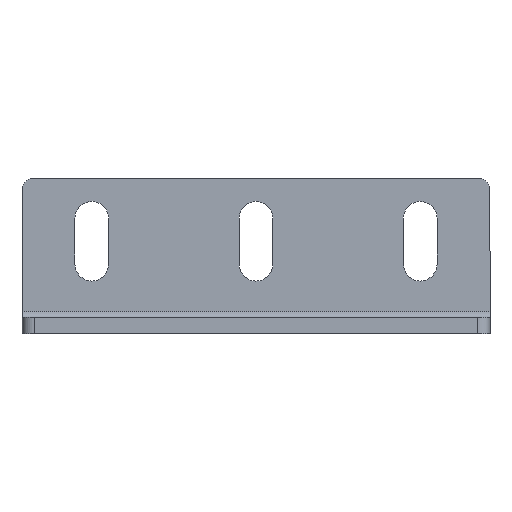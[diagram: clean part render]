
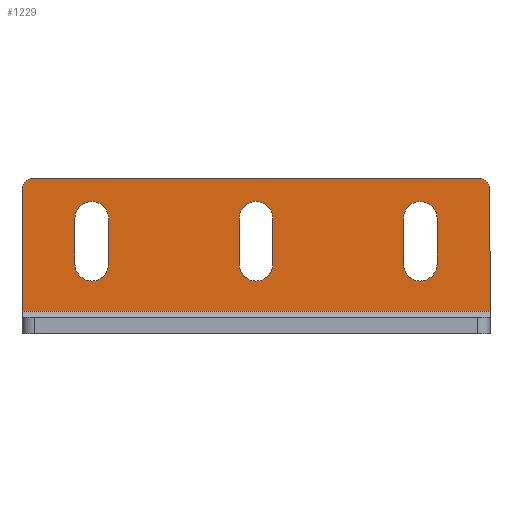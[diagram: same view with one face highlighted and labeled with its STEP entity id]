
A CAD part, top view. The second image highlights one B-rep face of the part: STEP entity #1229.
In plain terms, the highlighted planar face has unit normal (0, 0, 1).
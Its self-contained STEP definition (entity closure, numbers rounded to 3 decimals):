
#19 = EDGE_CURVE ( 'NONE', #1201, #1355, #59, .T. ) ;
#20 = DIRECTION ( 'NONE',  ( 0., 0., 1. ) ) ;
#26 = PLANE ( 'NONE',  #643 ) ;
#28 = CARTESIAN_POINT ( 'NONE',  ( 94.783, 19.097, 4. ) ) ;
#31 = VERTEX_POINT ( 'NONE', #889 ) ;
#37 = DIRECTION ( 'NONE',  ( 0., 0., 1. ) ) ;
#58 = CARTESIAN_POINT ( 'NONE',  ( 84.883, 9.297, 4. ) ) ;
#59 = LINE ( 'NONE', #148, #342 ) ;
#77 = AXIS2_PLACEMENT_3D ( 'NONE', #671, #37, #311 ) ;
#79 = VERTEX_POINT ( 'NONE', #1265 ) ;
#100 = VERTEX_POINT ( 'NONE', #987 ) ;
#106 = EDGE_CURVE ( 'NONE', #1219, #743, #482, .T. ) ;
#111 = DIRECTION ( 'NONE',  ( 0., 0., 1. ) ) ;
#115 = EDGE_CURVE ( 'NONE', #155, #79, #241, .T. ) ;
#118 = VERTEX_POINT ( 'NONE', #28 ) ;
#127 = CARTESIAN_POINT ( 'NONE',  ( 4.883, -1.903, 4. ) ) ;
#132 = CARTESIAN_POINT ( 'NONE',  ( 36.683, 9.297, 4. ) ) ;
#148 = CARTESIAN_POINT ( 'NONE',  ( 4.883, -1.903, 4. ) ) ;
#151 = CARTESIAN_POINT ( 'NONE',  ( 80.783, -1.903, 4. ) ) ;
#155 = VERTEX_POINT ( 'NONE', #365 ) ;
#159 = EDGE_CURVE ( 'NONE', #79, #31, #392, .T. ) ;
#176 = CARTESIAN_POINT ( 'NONE',  ( -16.217, -13.403, 4. ) ) ;
#181 = LINE ( 'NONE', #587, #780 ) ;
#188 = EDGE_CURVE ( 'NONE', #1355, #1219, #960, .T. ) ;
#200 = CARTESIAN_POINT ( 'NONE',  ( 97.783, 16.097, 4. ) ) ;
#206 = DIRECTION ( 'NONE',  ( 0., 1., 0. ) ) ;
#210 = EDGE_CURVE ( 'NONE', #1283, #1121, #595, .T. ) ;
#211 = VECTOR ( 'NONE', #447, 1000. ) ;
#222 = ORIENTED_EDGE ( 'NONE', *, *, #188, .F. ) ;
#237 = CARTESIAN_POINT ( 'NONE',  ( -3.317, 9.297, 4. ) ) ;
#241 = LINE ( 'NONE', #1209, #767 ) ;
#242 = CARTESIAN_POINT ( 'NONE',  ( -3.317, 9.297, 4. ) ) ;
#244 = EDGE_LOOP ( 'NONE', ( #402, #653, #916, #847 ) ) ;
#250 = EDGE_CURVE ( 'NONE', #345, #253, #568, .T. ) ;
#253 = VERTEX_POINT ( 'NONE', #200 ) ;
#259 = ORIENTED_EDGE ( 'NONE', *, *, #265, .T. ) ;
#262 = DIRECTION ( 'NONE',  ( 1., 0., 0. ) ) ;
#265 = EDGE_CURVE ( 'NONE', #253, #118, #817, .T. ) ;
#270 = CIRCLE ( 'NONE', #557, 3. ) ;
#303 = VERTEX_POINT ( 'NONE', #633 ) ;
#305 = LINE ( 'NONE', #132, #1373 ) ;
#311 = DIRECTION ( 'NONE',  ( 1., 0., 0. ) ) ;
#316 = VECTOR ( 'NONE', #1384, 1000. ) ;
#320 = CIRCLE ( 'NONE', #710, 4.1 ) ;
#342 = VECTOR ( 'NONE', #1003, 1000. ) ;
#345 = VERTEX_POINT ( 'NONE', #1368 ) ;
#352 = DIRECTION ( 'NONE',  ( 0., -1., 0. ) ) ;
#358 = FACE_BOUND ( 'NONE', #244, .T. ) ;
#359 = DIRECTION ( 'NONE',  ( 0., 0., 1. ) ) ;
#365 = CARTESIAN_POINT ( 'NONE',  ( 76.683, 9.297, 4. ) ) ;
#366 = EDGE_CURVE ( 'NONE', #31, #1042, #712, .T. ) ;
#387 = EDGE_LOOP ( 'NONE', ( #786, #516, #795, #929 ) ) ;
#392 = CIRCLE ( 'NONE', #1216, 4.1 ) ;
#396 = AXIS2_PLACEMENT_3D ( 'NONE', #739, #111, #850 ) ;
#402 = ORIENTED_EDGE ( 'NONE', *, *, #366, .F. ) ;
#417 = CARTESIAN_POINT ( 'NONE',  ( 44.883, -1.903, 4. ) ) ;
#421 = EDGE_CURVE ( 'NONE', #1346, #1271, #757, .T. ) ;
#447 = DIRECTION ( 'NONE',  ( 0., -1., 0. ) ) ;
#457 = CARTESIAN_POINT ( 'NONE',  ( 44.883, 9.297, 4. ) ) ;
#459 = ORIENTED_EDGE ( 'NONE', *, *, #681, .F. ) ;
#469 = ORIENTED_EDGE ( 'NONE', *, *, #1032, .T. ) ;
#482 = LINE ( 'NONE', #242, #211 ) ;
#483 = EDGE_CURVE ( 'NONE', #1271, #591, #621, .T. ) ;
#491 = DIRECTION ( 'NONE',  ( 0., 0., 1. ) ) ;
#504 = CARTESIAN_POINT ( 'NONE',  ( 0.783, 9.297, 4. ) ) ;
#513 = CARTESIAN_POINT ( 'NONE',  ( 44.883, -1.903, 4. ) ) ;
#515 = CARTESIAN_POINT ( 'NONE',  ( 4.883, 9.297, 4. ) ) ;
#516 = ORIENTED_EDGE ( 'NONE', *, *, #1286, .F. ) ;
#552 = DIRECTION ( 'NONE',  ( 0., -1., 0. ) ) ;
#557 = AXIS2_PLACEMENT_3D ( 'NONE', #1147, #491, #1249 ) ;
#568 = LINE ( 'NONE', #946, #1119 ) ;
#570 = DIRECTION ( 'NONE',  ( 0., 0., 1. ) ) ;
#578 = ORIENTED_EDGE ( 'NONE', *, *, #250, .T. ) ;
#587 = CARTESIAN_POINT ( 'NONE',  ( 0., -13.403, 4. ) ) ;
#591 = VERTEX_POINT ( 'NONE', #913 ) ;
#595 = LINE ( 'NONE', #713, #1150 ) ;
#608 = DIRECTION ( 'NONE',  ( 1., 0., 0. ) ) ;
#618 = DIRECTION ( 'NONE',  ( 0., 1., 0. ) ) ;
#620 = CARTESIAN_POINT ( 'NONE',  ( 80.783, 9.297, 4. ) ) ;
#621 = CIRCLE ( 'NONE', #77, 4.1 ) ;
#629 = FACE_BOUND ( 'NONE', #1205, .T. ) ;
#633 = CARTESIAN_POINT ( 'NONE',  ( -13.217, 19.097, 4. ) ) ;
#643 = AXIS2_PLACEMENT_3D ( 'NONE', #1307, #359, #1107 ) ;
#652 = CARTESIAN_POINT ( 'NONE',  ( 0.783, -1.903, 4. ) ) ;
#653 = ORIENTED_EDGE ( 'NONE', *, *, #159, .F. ) ;
#663 = FACE_OUTER_BOUND ( 'NONE', #715, .T. ) ;
#664 = ORIENTED_EDGE ( 'NONE', *, *, #19, .F. ) ;
#671 = CARTESIAN_POINT ( 'NONE',  ( 40.783, 9.297, 4. ) ) ;
#674 = ORIENTED_EDGE ( 'NONE', *, *, #855, .T. ) ;
#677 = ORIENTED_EDGE ( 'NONE', *, *, #106, .F. ) ;
#681 = EDGE_CURVE ( 'NONE', #743, #1201, #1153, .T. ) ;
#706 = ORIENTED_EDGE ( 'NONE', *, *, #210, .T. ) ;
#710 = AXIS2_PLACEMENT_3D ( 'NONE', #1221, #570, #1331 ) ;
#712 = LINE ( 'NONE', #1269, #1290 ) ;
#713 = CARTESIAN_POINT ( 'NONE',  ( -16.217, 19.097, 4. ) ) ;
#715 = EDGE_LOOP ( 'NONE', ( #706, #1242, #578, #259, #469, #674 ) ) ;
#728 = DIRECTION ( 'NONE',  ( 1., 0., 0. ) ) ;
#739 = CARTESIAN_POINT ( 'NONE',  ( 94.783, 16.097, 4. ) ) ;
#743 = VERTEX_POINT ( 'NONE', #979 ) ;
#757 = LINE ( 'NONE', #513, #1016 ) ;
#760 = DIRECTION ( 'NONE',  ( 1., 0., 0. ) ) ;
#767 = VECTOR ( 'NONE', #352, 1000. ) ;
#780 = VECTOR ( 'NONE', #802, 1000. ) ;
#786 = ORIENTED_EDGE ( 'NONE', *, *, #421, .F. ) ;
#788 = EDGE_CURVE ( 'NONE', #591, #100, #305, .T. ) ;
#795 = ORIENTED_EDGE ( 'NONE', *, *, #788, .F. ) ;
#802 = DIRECTION ( 'NONE',  ( 1., 0., 0. ) ) ;
#817 = CIRCLE ( 'NONE', #396, 3. ) ;
#847 = ORIENTED_EDGE ( 'NONE', *, *, #1337, .F. ) ;
#850 = DIRECTION ( 'NONE',  ( 1., 0., 0. ) ) ;
#855 = EDGE_CURVE ( 'NONE', #303, #1283, #270, .T. ) ;
#889 = CARTESIAN_POINT ( 'NONE',  ( 84.883, -1.903, 4. ) ) ;
#891 = DIRECTION ( 'NONE',  ( 0., 0., 1. ) ) ;
#913 = CARTESIAN_POINT ( 'NONE',  ( 36.683, 9.297, 4. ) ) ;
#916 = ORIENTED_EDGE ( 'NONE', *, *, #115, .F. ) ;
#929 = ORIENTED_EDGE ( 'NONE', *, *, #483, .F. ) ;
#938 = AXIS2_PLACEMENT_3D ( 'NONE', #620, #1382, #728 ) ;
#941 = DIRECTION ( 'NONE',  ( 0., -1., 0. ) ) ;
#946 = CARTESIAN_POINT ( 'NONE',  ( 97.783, 19.097, 4. ) ) ;
#960 = CIRCLE ( 'NONE', #1279, 4.1 ) ;
#979 = CARTESIAN_POINT ( 'NONE',  ( -3.317, -1.903, 4. ) ) ;
#987 = CARTESIAN_POINT ( 'NONE',  ( 36.683, -1.903, 4. ) ) ;
#1003 = DIRECTION ( 'NONE',  ( 0., 1., 0. ) ) ;
#1016 = VECTOR ( 'NONE', #206, 1000. ) ;
#1032 = EDGE_CURVE ( 'NONE', #118, #303, #1108, .T. ) ;
#1042 = VERTEX_POINT ( 'NONE', #58 ) ;
#1056 = DIRECTION ( 'NONE',  ( 0., 1., 0. ) ) ;
#1107 = DIRECTION ( 'NONE',  ( 1., 0., 0. ) ) ;
#1108 = LINE ( 'NONE', #1171, #316 ) ;
#1110 = EDGE_CURVE ( 'NONE', #1121, #345, #181, .T. ) ;
#1119 = VECTOR ( 'NONE', #1056, 1000. ) ;
#1121 = VERTEX_POINT ( 'NONE', #176 ) ;
#1147 = CARTESIAN_POINT ( 'NONE',  ( -13.217, 16.097, 4. ) ) ;
#1150 = VECTOR ( 'NONE', #941, 1000. ) ;
#1153 = CIRCLE ( 'NONE', #1370, 4.1 ) ;
#1171 = CARTESIAN_POINT ( 'NONE',  ( 17.783, 19.097, 4. ) ) ;
#1201 = VERTEX_POINT ( 'NONE', #127 ) ;
#1205 = EDGE_LOOP ( 'NONE', ( #664, #459, #677, #222 ) ) ;
#1208 = FACE_BOUND ( 'NONE', #387, .T. ) ;
#1209 = CARTESIAN_POINT ( 'NONE',  ( 76.683, 9.297, 4. ) ) ;
#1216 = AXIS2_PLACEMENT_3D ( 'NONE', #151, #891, #262 ) ;
#1219 = VERTEX_POINT ( 'NONE', #237 ) ;
#1221 = CARTESIAN_POINT ( 'NONE',  ( 40.783, -1.903, 4. ) ) ;
#1229 = ADVANCED_FACE ( 'NONE', ( #663, #1208, #629, #358 ), #26, .T. ) ;
#1242 = ORIENTED_EDGE ( 'NONE', *, *, #1110, .T. ) ;
#1249 = DIRECTION ( 'NONE',  ( 1., 0., 0. ) ) ;
#1259 = DIRECTION ( 'NONE',  ( 0., 0., 1. ) ) ;
#1265 = CARTESIAN_POINT ( 'NONE',  ( 76.683, -1.903, 4. ) ) ;
#1269 = CARTESIAN_POINT ( 'NONE',  ( 84.883, -1.903, 4. ) ) ;
#1271 = VERTEX_POINT ( 'NONE', #457 ) ;
#1279 = AXIS2_PLACEMENT_3D ( 'NONE', #504, #1259, #608 ) ;
#1283 = VERTEX_POINT ( 'NONE', #1322 ) ;
#1286 = EDGE_CURVE ( 'NONE', #100, #1346, #320, .T. ) ;
#1290 = VECTOR ( 'NONE', #618, 1000. ) ;
#1307 = CARTESIAN_POINT ( 'NONE',  ( 0., 0., 4. ) ) ;
#1322 = CARTESIAN_POINT ( 'NONE',  ( -16.217, 16.097, 4. ) ) ;
#1325 = CIRCLE ( 'NONE', #938, 4.1 ) ;
#1331 = DIRECTION ( 'NONE',  ( 1., 0., 0. ) ) ;
#1337 = EDGE_CURVE ( 'NONE', #1042, #155, #1325, .T. ) ;
#1346 = VERTEX_POINT ( 'NONE', #417 ) ;
#1355 = VERTEX_POINT ( 'NONE', #515 ) ;
#1368 = CARTESIAN_POINT ( 'NONE',  ( 97.783, -13.403, 4. ) ) ;
#1370 = AXIS2_PLACEMENT_3D ( 'NONE', #652, #20, #760 ) ;
#1373 = VECTOR ( 'NONE', #552, 1000. ) ;
#1382 = DIRECTION ( 'NONE',  ( 0., 0., 1. ) ) ;
#1384 = DIRECTION ( 'NONE',  ( -1., 0., 0. ) ) ;
